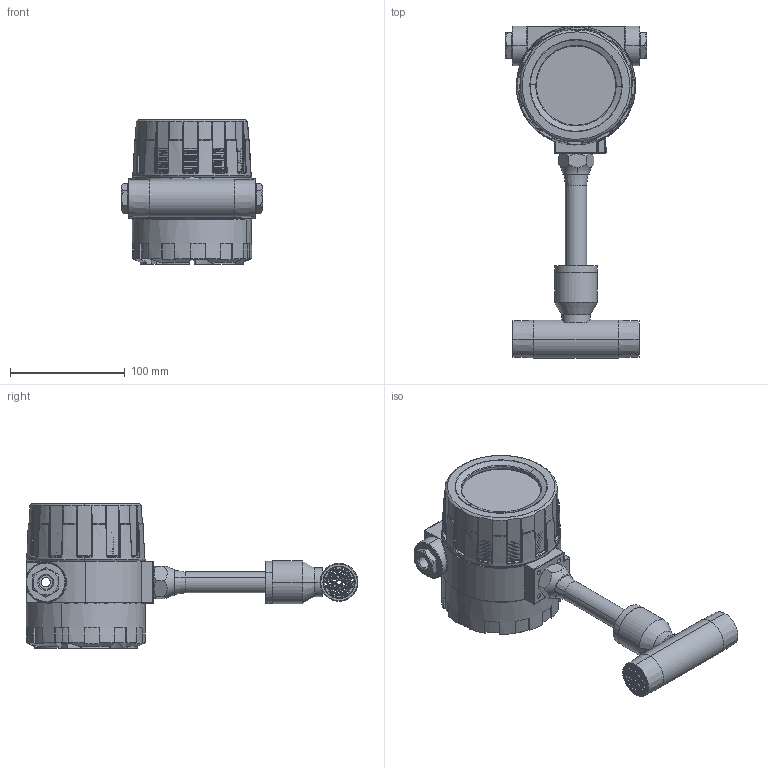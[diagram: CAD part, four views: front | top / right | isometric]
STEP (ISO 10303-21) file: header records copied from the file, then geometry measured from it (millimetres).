
FILE_DESCRIPTION (( 'STEP AP214' ), '1' );
FILE_NAME ('DN25 NPT thermal-2.STEP', '2026-08-25T00:23:41', ( '' ), ( '' ), 'SwSTEP 2.0', 'SolidWorks 2020', '' );
FILE_SCHEMA (( 'AUTOMOTIVE_DESIGN' ));
Length unit declared in the file: millimetre
Products named in the file (14): sensor base; en; flc; ef; nut; probe 50mm; DN25 NPT thermal-2; DN25 NPT; flc pipe; ec; Holder; Gasket; enclouser; eb
Assembly tree (15 placements, depth 3):
  DN25 NPT thermal-2
    DN25 NPT
    flc  x2
    flc pipe
    sensor base
    Gasket
    enclouser
      ec
      ef
      en  x2
      eb
    probe 50mm
    Holder
    nut
Bounding box: 123 x 289.21 x 126 mm (x, y, z)
Volume: 573142.1 mm3; surface area: 247662 mm2
Topology: 14 solids, 14 shells, 1134 faces, 2902 edges, 1797 vertices
Faces by surface type: cylinder 568, plane 261, bspline 117, torus 80, sphere 64, cone 44
Entity records: 47088 total; most frequent: CARTESIAN_POINT 23667, ORIENTED_EDGE 5086, DIRECTION 4499, EDGE_CURVE 2543, AXIS2_PLACEMENT_3D 1814, VERTEX_POINT 1582, EDGE_LOOP 1149, FACE_OUTER_BOUND 1021
